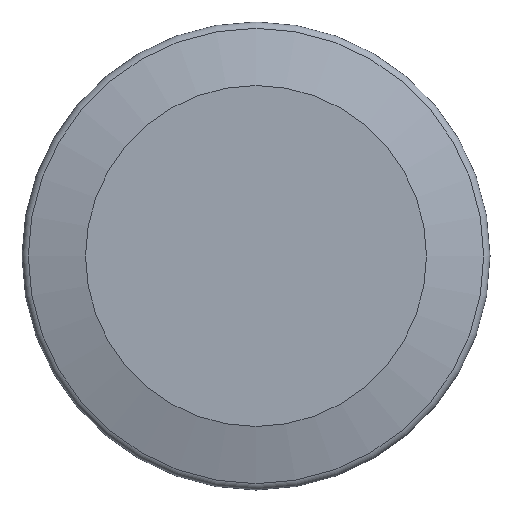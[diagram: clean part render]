
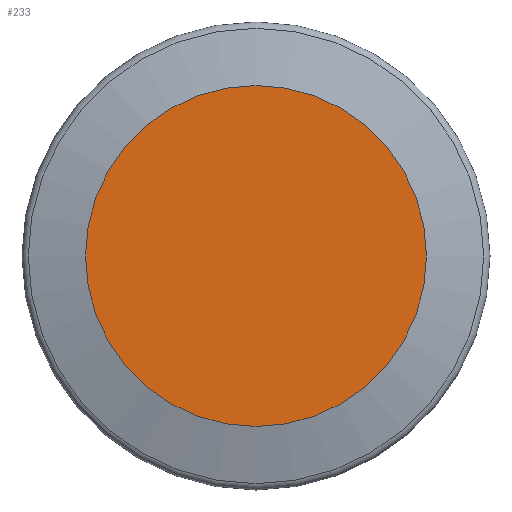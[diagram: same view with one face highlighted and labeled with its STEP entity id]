
A CAD part, left-side view. The second image highlights one B-rep face of the part: STEP entity #233.
In plain terms, the highlighted planar face has unit normal (-1, 0, 0).
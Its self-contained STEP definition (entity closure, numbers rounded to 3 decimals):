
#101=CARTESIAN_POINT('',(0.,20.036,0.0));
#102=VERTEX_POINT('',#101);
#103=CARTESIAN_POINT('',(0.,0.,0.0));
#104=DIRECTION('',(1.0,0.0,0.0));
#105=DIRECTION('',(0.0,1.0,0.0));
#106=AXIS2_PLACEMENT_3D('',#103,#104,#105);
#107=CIRCLE('',#106,20.036);
#108=EDGE_CURVE('',#102,#102,#107,.T.);
#225=CARTESIAN_POINT('',(0.,10.018,0.0));
#226=DIRECTION('',(-1.0,0.0,0.0));
#227=DIRECTION('',(0.0,0.0,1.0));
#228=AXIS2_PLACEMENT_3D('',#225,#226,#227);
#229=PLANE('',#228);
#230=ORIENTED_EDGE('',*,*,#108,.F.);
#231=EDGE_LOOP('',(#230));
#232=FACE_OUTER_BOUND('',#231,.T.);
#233=ADVANCED_FACE('',(#232),#229,.T.);
